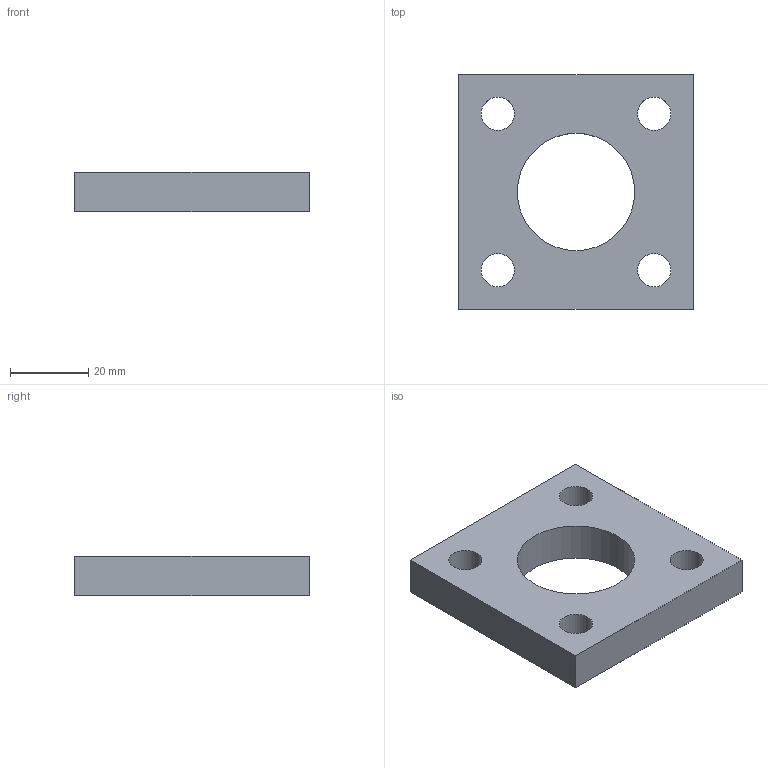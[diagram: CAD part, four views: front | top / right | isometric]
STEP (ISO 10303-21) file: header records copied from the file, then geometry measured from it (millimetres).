
FILE_DESCRIPTION (( 'STEP AP214' ), '1' );
FILE_NAME ('3D3.PC54.STEP', '2018-03-08T10:46:23', ( 'usuario' ), ( 'Hewlett-Packard Company' ), 'SwSTEP 2.0', 'SolidWorks 2013', '' );
FILE_SCHEMA (( 'AUTOMOTIVE_DESIGN' ));
Length unit declared in the file: millimetre
Products named in the file (1): 3D3.PC54
Bounding box: 60 x 60 x 10 mm (x, y, z)
Volume: 26661.6 mm3; surface area: 9742.9 mm2
Topology: 1 solids, 1 shells, 16 faces, 42 edges, 28 vertices
Faces by surface type: cylinder 10, plane 6
Entity records: 560 total; most frequent: DIRECTION 96, CARTESIAN_POINT 87, ORIENTED_EDGE 84, EDGE_CURVE 42, AXIS2_PLACEMENT_3D 37, VERTEX_POINT 28, EDGE_LOOP 26, VECTOR 22
